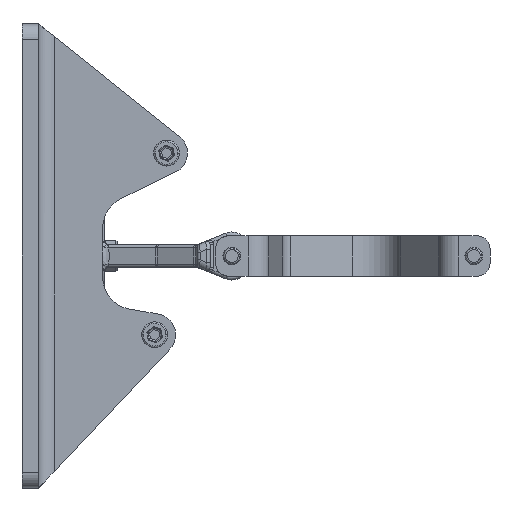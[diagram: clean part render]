
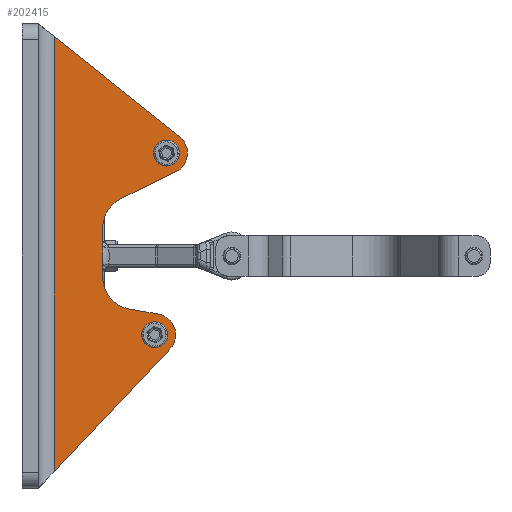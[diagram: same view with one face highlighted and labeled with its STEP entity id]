
A CAD part, front view. The second image highlights one B-rep face of the part: STEP entity #202415.
In plain terms, the highlighted planar face has unit normal (0, -1, 0).
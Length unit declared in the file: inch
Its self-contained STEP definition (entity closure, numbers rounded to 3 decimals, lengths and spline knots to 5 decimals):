
#2705 = ORIENTED_EDGE ( 'NONE', *, *, #244401, .T. ) ;
#6311 = CARTESIAN_POINT ( 'NONE',  ( -5.11811, -13.75984, -0.51875 ) ) ;
#6903 = DIRECTION ( 'NONE',  ( 0., 0., 1. ) ) ;
#11655 = ORIENTED_EDGE ( 'NONE', *, *, #193222, .T. ) ;
#11785 = AXIS2_PLACEMENT_3D ( 'NONE', #6311, #146864, #26402 ) ;
#11985 = ORIENTED_EDGE ( 'NONE', *, *, #221724, .T. ) ;
#14257 = LINE ( 'NONE', #202751, #114809 ) ;
#14499 = DIRECTION ( 'NONE',  ( 0., 1., 0. ) ) ;
#17655 = EDGE_CURVE ( 'NONE', #200900, #223282, #141688, .T. ) ;
#18068 = DIRECTION ( 'NONE',  ( -0.985, 0., 0.171 ) ) ;
#19647 = FACE_BOUND ( 'NONE', #35030, .T. ) ;
#19930 = VERTEX_POINT ( 'NONE', #28028 ) ;
#22760 = VERTEX_POINT ( 'NONE', #40664 ) ;
#23964 = VERTEX_POINT ( 'NONE', #25814 ) ;
#24480 = DIRECTION ( 'NONE',  ( 0.687, 0., 0.726 ) ) ;
#25814 = CARTESIAN_POINT ( 'NONE',  ( -4.12297, -13.75984, 2.04975 ) ) ;
#26370 = CARTESIAN_POINT ( 'NONE',  ( -4.32262, -13.75984, -1.92095 ) ) ;
#26402 = DIRECTION ( 'NONE',  ( 0., 0., -1. ) ) ;
#27546 = DIRECTION ( 'NONE',  ( 0., 1., 0. ) ) ;
#28028 = CARTESIAN_POINT ( 'NONE',  ( -7.08661, -13.75984, -5.25329 ) ) ;
#33563 = CARTESIAN_POINT ( 'NONE',  ( -5.25294, -13.75984, -1.29452 ) ) ;
#34845 = EDGE_CURVE ( 'NONE', #87744, #143560, #240471, .T. ) ;
#35030 = EDGE_LOOP ( 'NONE', ( #59350, #11985 ) ) ;
#36072 = ORIENTED_EDGE ( 'NONE', *, *, #249019, .T. ) ;
#36333 = AXIS2_PLACEMENT_3D ( 'NONE', #147977, #27546, #168169 ) ;
#39766 = VERTEX_POINT ( 'NONE', #121830 ) ;
#40664 = CARTESIAN_POINT ( 'NONE',  ( -5.90551, -13.75984, -0.51875 ) ) ;
#40821 = CARTESIAN_POINT ( 'NONE',  ( -7.48031, -13.75984, 5.66929 ) ) ;
#41729 = VERTEX_POINT ( 'NONE', #199203 ) ;
#43017 = EDGE_CURVE ( 'NONE', #87744, #59100, #238167, .T. ) ;
#43590 = EDGE_CURVE ( 'NONE', #39766, #23964, #204121, .T. ) ;
#43891 = CARTESIAN_POINT ( 'NONE',  ( -7.48031, -13.75984, -5.66929 ) ) ;
#44836 = CARTESIAN_POINT ( 'NONE',  ( -4.34717, -13.75984, 2.50984 ) ) ;
#45795 = AXIS2_PLACEMENT_3D ( 'NONE', #134806, #14499, #155064 ) ;
#45991 = EDGE_CURVE ( 'NONE', #179697, #23964, #189846, .T. ) ;
#49275 = CARTESIAN_POINT ( 'NONE',  ( -4.63758, -13.75984, -1.92095 ) ) ;
#49334 = ORIENTED_EDGE ( 'NONE', *, *, #45991, .F. ) ;
#51974 = VECTOR ( 'NONE', #61125, 39.37008 ) ;
#52815 = ORIENTED_EDGE ( 'NONE', *, *, #213545, .T. ) ;
#57720 = CARTESIAN_POINT ( 'NONE',  ( -5.90551, -13.75984, -1.1811 ) ) ;
#59100 = VERTEX_POINT ( 'NONE', #152585 ) ;
#59350 = ORIENTED_EDGE ( 'NONE', *, *, #255935, .T. ) ;
#61125 = DIRECTION ( 'NONE',  ( -0.781, 0., 0.624 ) ) ;
#65090 = AXIS2_PLACEMENT_3D ( 'NONE', #209826, #150545, #113496 ) ;
#65174 = DIRECTION ( 'NONE',  ( -1., 0., 0. ) ) ;
#67718 = CARTESIAN_POINT ( 'NONE',  ( -4.54995, -13.75984, -1.4167 ) ) ;
#67730 = CIRCLE ( 'NONE', #109083, 0.31496 ) ;
#69607 = DIRECTION ( 'NONE',  ( -1., 0., 0. ) ) ;
#72031 = CIRCLE ( 'NONE', #11785, 0.7874 ) ;
#73160 = FACE_OUTER_BOUND ( 'NONE', #248089, .T. ) ;
#76204 = ORIENTED_EDGE ( 'NONE', *, *, #34845, .T. ) ;
#86828 = LINE ( 'NONE', #43891, #187356 ) ;
#87744 = VERTEX_POINT ( 'NONE', #67718 ) ;
#88354 = VERTEX_POINT ( 'NONE', #128569 ) ;
#89663 = ORIENTED_EDGE ( 'NONE', *, *, #43017, .F. ) ;
#92299 = DIRECTION ( 'NONE',  ( 0., 1., 0. ) ) ;
#92811 = PLANE ( 'NONE',  #45795 ) ;
#93527 = DIRECTION ( 'NONE',  ( 0., 1., 0. ) ) ;
#96683 = CARTESIAN_POINT ( 'NONE',  ( -5.90551, -13.75984, 1.1811 ) ) ;
#99814 = ORIENTED_EDGE ( 'NONE', *, *, #43590, .T. ) ;
#107942 = DIRECTION ( 'NONE',  ( 0., 0., 1. ) ) ;
#109083 = AXIS2_PLACEMENT_3D ( 'NONE', #49275, #189834, #69607 ) ;
#109549 = AXIS2_PLACEMENT_3D ( 'NONE', #213998, #93527, #234271 ) ;
#112266 = CIRCLE ( 'NONE', #36333, 0.7874 ) ;
#113496 = DIRECTION ( 'NONE',  ( -1., 0., 0. ) ) ;
#114809 = VECTOR ( 'NONE', #223151, 39.37008 ) ;
#116709 = VERTEX_POINT ( 'NONE', #218014 ) ;
#121830 = CARTESIAN_POINT ( 'NONE',  ( -5.46304, -13.75984, 1.39672 ) ) ;
#125334 = EDGE_LOOP ( 'NONE', ( #223235, #204180 ) ) ;
#126474 = FACE_BOUND ( 'NONE', #125334, .T. ) ;
#127190 = DIRECTION ( 'NONE',  ( 0., 1., 0. ) ) ;
#128569 = CARTESIAN_POINT ( 'NONE',  ( -5.90551, -13.75984, 0.68889 ) ) ;
#134806 = CARTESIAN_POINT ( 'NONE',  ( -0.7874, -13.75984, 5.66929 ) ) ;
#139275 = ORIENTED_EDGE ( 'NONE', *, *, #246349, .F. ) ;
#141688 = CIRCLE ( 'NONE', #65090, 0.31496 ) ;
#142369 = VERTEX_POINT ( 'NONE', #206607 ) ;
#143560 = VERTEX_POINT ( 'NONE', #33563 ) ;
#146864 = DIRECTION ( 'NONE',  ( 0., 1., 0. ) ) ;
#147977 = CARTESIAN_POINT ( 'NONE',  ( -5.11811, -13.75984, 0.68889 ) ) ;
#150545 = DIRECTION ( 'NONE',  ( 0., 1., 0. ) ) ;
#152585 = CARTESIAN_POINT ( 'NONE',  ( -4.26585, -13.75984, -2.27275 ) ) ;
#155064 = DIRECTION ( 'NONE',  ( -1., 0., 0. ) ) ;
#161254 = EDGE_CURVE ( 'NONE', #22760, #88354, #243979, .T. ) ;
#168169 = DIRECTION ( 'NONE',  ( 0., 0., -1. ) ) ;
#174351 = AXIS2_PLACEMENT_3D ( 'NONE', #212740, #92299, #233035 ) ;
#175882 = CIRCLE ( 'NONE', #174351, 0.31496 ) ;
#179697 = VERTEX_POINT ( 'NONE', #208566 ) ;
#185391 = DIRECTION ( 'NONE',  ( 0., 1., 0. ) ) ;
#186726 = VECTOR ( 'NONE', #18068, 39.37008 ) ;
#187356 = VECTOR ( 'NONE', #24480, 39.37008 ) ;
#187966 = CARTESIAN_POINT ( 'NONE',  ( -5.90551, -13.75984, -1.1811 ) ) ;
#189834 = DIRECTION ( 'NONE',  ( 0., 1., 0. ) ) ;
#189846 = CIRCLE ( 'NONE', #245402, 0.51181 ) ;
#190319 = VECTOR ( 'NONE', #107942, 39.37008 ) ;
#193222 = EDGE_CURVE ( 'NONE', #179697, #116709, #212495, .T. ) ;
#198126 = AXIS2_PLACEMENT_3D ( 'NONE', #44836, #185391, #65174 ) ;
#199203 = CARTESIAN_POINT ( 'NONE',  ( -4.66214, -13.75984, 2.50984 ) ) ;
#200900 = VERTEX_POINT ( 'NONE', #236357 ) ;
#202415 = ADVANCED_FACE ( 'NONE', ( #126474, #73160, #19647 ), #92811, .F. ) ;
#202751 = CARTESIAN_POINT ( 'NONE',  ( -7.08661, -13.75984, 5.66929 ) ) ;
#204121 = LINE ( 'NONE', #96683, #257749 ) ;
#204180 = ORIENTED_EDGE ( 'NONE', *, *, #243226, .T. ) ;
#206607 = CARTESIAN_POINT ( 'NONE',  ( -4.03221, -13.75984, 2.50984 ) ) ;
#208566 = CARTESIAN_POINT ( 'NONE',  ( -4.02763, -13.75984, 2.90964 ) ) ;
#209826 = CARTESIAN_POINT ( 'NONE',  ( -4.63758, -13.75984, -1.92095 ) ) ;
#212495 = LINE ( 'NONE', #40821, #51974 ) ;
#212740 = CARTESIAN_POINT ( 'NONE',  ( -4.34717, -13.75984, 2.50984 ) ) ;
#213545 = EDGE_CURVE ( 'NONE', #19930, #59100, #86828, .T. ) ;
#213998 = CARTESIAN_POINT ( 'NONE',  ( -4.63758, -13.75984, -1.92095 ) ) ;
#217205 = DIRECTION ( 'NONE',  ( 0.899, 0., 0.438 ) ) ;
#218014 = CARTESIAN_POINT ( 'NONE',  ( -7.08661, -13.75984, 5.35462 ) ) ;
#221724 = EDGE_CURVE ( 'NONE', #142369, #41729, #175882, .T. ) ;
#223151 = DIRECTION ( 'NONE',  ( 0., 0., 1. ) ) ;
#223235 = ORIENTED_EDGE ( 'NONE', *, *, #17655, .T. ) ;
#223282 = VERTEX_POINT ( 'NONE', #26370 ) ;
#233035 = DIRECTION ( 'NONE',  ( -1., 0., 0. ) ) ;
#234271 = DIRECTION ( 'NONE',  ( 0., 0., 1. ) ) ;
#236357 = CARTESIAN_POINT ( 'NONE',  ( -4.95254, -13.75984, -1.92095 ) ) ;
#238167 = CIRCLE ( 'NONE', #109549, 0.51181 ) ;
#240471 = LINE ( 'NONE', #57720, #186726 ) ;
#243226 = EDGE_CURVE ( 'NONE', #223282, #200900, #67730, .T. ) ;
#243979 = LINE ( 'NONE', #187966, #190319 ) ;
#244401 = EDGE_CURVE ( 'NONE', #143560, #22760, #72031, .T. ) ;
#245402 = AXIS2_PLACEMENT_3D ( 'NONE', #247814, #127190, #6903 ) ;
#246349 = EDGE_CURVE ( 'NONE', #19930, #116709, #14257, .T. ) ;
#247814 = CARTESIAN_POINT ( 'NONE',  ( -4.34717, -13.75984, 2.50984 ) ) ;
#248089 = EDGE_LOOP ( 'NONE', ( #139275, #52815, #89663, #76204, #2705, #251482, #36072, #99814, #49334, #11655 ) ) ;
#249019 = EDGE_CURVE ( 'NONE', #88354, #39766, #112266, .T. ) ;
#251482 = ORIENTED_EDGE ( 'NONE', *, *, #161254, .T. ) ;
#254048 = CIRCLE ( 'NONE', #198126, 0.31496 ) ;
#255935 = EDGE_CURVE ( 'NONE', #41729, #142369, #254048, .T. ) ;
#257749 = VECTOR ( 'NONE', #217205, 39.37008 ) ;
